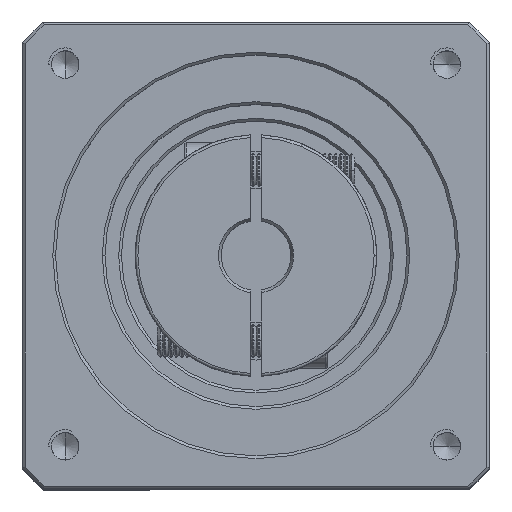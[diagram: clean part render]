
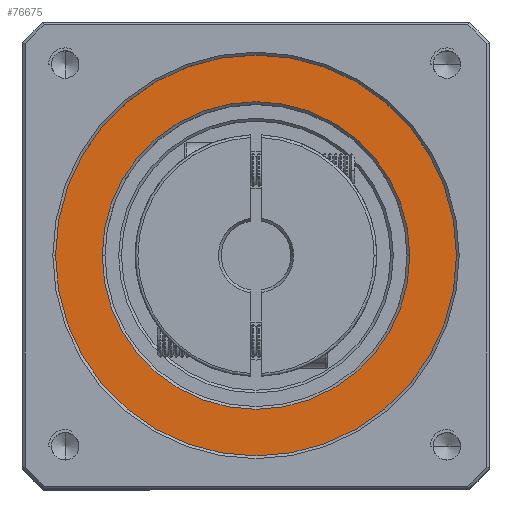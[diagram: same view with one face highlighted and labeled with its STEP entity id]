
A CAD part, top view. The second image highlights one B-rep face of the part: STEP entity #76675.
In plain terms, the highlighted planar face has unit normal (0, 0, 1).
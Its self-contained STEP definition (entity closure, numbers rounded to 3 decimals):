
#10761 = AXIS2_PLACEMENT_3D ( 'NONE', #42417, #90205, #51964 ) ;
#10994 = DIRECTION ( 'NONE',  ( 0., 0., 1. ) ) ;
#16268 = FACE_OUTER_BOUND ( 'NONE', #91309, .T. ) ;
#17326 = CARTESIAN_POINT ( 'NONE',  ( -34.658, 1.512, 180. ) ) ;
#20994 = AXIS2_PLACEMENT_3D ( 'NONE', #17326, #95992, #76826 ) ;
#21391 = CARTESIAN_POINT ( 'NONE',  ( -34.658, 1.512, 180. ) ) ;
#22206 = DIRECTION ( 'NONE',  ( 1., 0., 0. ) ) ;
#22504 = FACE_BOUND ( 'NONE', #42997, .T. ) ;
#24408 = AXIS2_PLACEMENT_3D ( 'NONE', #112179, #44313, #92114 ) ;
#29767 = CARTESIAN_POINT ( 'NONE',  ( -71.158, 1.512, 180. ) ) ;
#36696 = CIRCLE ( 'NONE', #40300, 28. ) ;
#38770 = CIRCLE ( 'NONE', #24408, 28. ) ;
#40300 = AXIS2_PLACEMENT_3D ( 'NONE', #21391, #53011, #22206 ) ;
#42417 = CARTESIAN_POINT ( 'NONE',  ( -34.658, 1.512, 180. ) ) ;
#42997 = EDGE_LOOP ( 'NONE', ( #104072, #74319 ) ) ;
#44313 = DIRECTION ( 'NONE',  ( 0., 0., -1. ) ) ;
#50056 = AXIS2_PLACEMENT_3D ( 'NONE', #120498, #10994, #81286 ) ;
#51964 = DIRECTION ( 'NONE',  ( 1., 0., 0. ) ) ;
#52983 = ORIENTED_EDGE ( 'NONE', *, *, #58977, .T. ) ;
#53011 = DIRECTION ( 'NONE',  ( 0., 0., -1. ) ) ;
#54757 = CARTESIAN_POINT ( 'NONE',  ( 1.842, 1.512, 180. ) ) ;
#55601 = PLANE ( 'NONE',  #20994 ) ;
#58977 = EDGE_CURVE ( 'NONE', #109744, #71403, #128526, .T. ) ;
#62608 = VERTEX_POINT ( 'NONE', #73687 ) ;
#64952 = CIRCLE ( 'NONE', #50056, 36.5 ) ;
#65300 = EDGE_CURVE ( 'NONE', #62608, #95511, #38770, .T. ) ;
#70280 = EDGE_CURVE ( 'NONE', #71403, #109744, #64952, .T. ) ;
#71403 = VERTEX_POINT ( 'NONE', #29767 ) ;
#73687 = CARTESIAN_POINT ( 'NONE',  ( -6.658, 1.512, 180. ) ) ;
#74319 = ORIENTED_EDGE ( 'NONE', *, *, #108337, .T. ) ;
#76675 = ADVANCED_FACE ( 'NONE', ( #16268, #22504 ), #55601, .T. ) ;
#76826 = DIRECTION ( 'NONE',  ( 1., 0., 0. ) ) ;
#81286 = DIRECTION ( 'NONE',  ( 1., 0., 0. ) ) ;
#81860 = CARTESIAN_POINT ( 'NONE',  ( -62.658, 1.512, 180. ) ) ;
#90205 = DIRECTION ( 'NONE',  ( 0., 0., 1. ) ) ;
#91309 = EDGE_LOOP ( 'NONE', ( #52983, #103679 ) ) ;
#92114 = DIRECTION ( 'NONE',  ( 1., 0., 0. ) ) ;
#95511 = VERTEX_POINT ( 'NONE', #81860 ) ;
#95992 = DIRECTION ( 'NONE',  ( 0., 0., 1. ) ) ;
#103679 = ORIENTED_EDGE ( 'NONE', *, *, #70280, .T. ) ;
#104072 = ORIENTED_EDGE ( 'NONE', *, *, #65300, .T. ) ;
#108337 = EDGE_CURVE ( 'NONE', #95511, #62608, #36696, .T. ) ;
#109744 = VERTEX_POINT ( 'NONE', #54757 ) ;
#112179 = CARTESIAN_POINT ( 'NONE',  ( -34.658, 1.512, 180. ) ) ;
#120498 = CARTESIAN_POINT ( 'NONE',  ( -34.658, 1.512, 180. ) ) ;
#128526 = CIRCLE ( 'NONE', #10761, 36.5 ) ;
